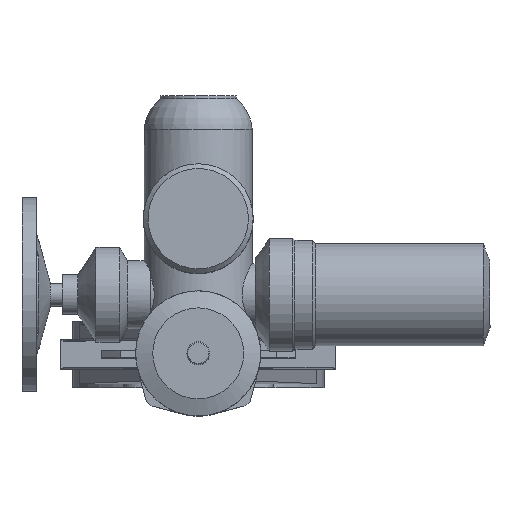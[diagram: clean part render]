
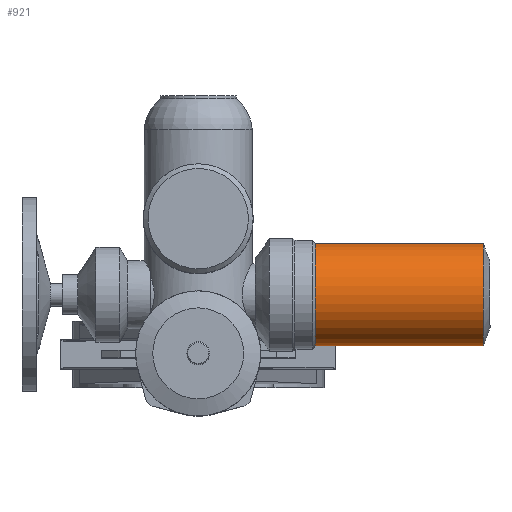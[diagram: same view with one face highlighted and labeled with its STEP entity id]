
A CAD part, top view. The second image highlights one B-rep face of the part: STEP entity #921.
In plain terms, the highlighted cylindrical face has radius 54 mm (diameter 108 mm), a full revolution.
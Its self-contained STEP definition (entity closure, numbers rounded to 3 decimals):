
#921=ADVANCED_FACE('',(#2933,#2935),#2937,.T.);
#2933=FACE_OUTER_BOUND('',#2934,.T.);
#2934=EDGE_LOOP('',(#4399));
#2935=FACE_OUTER_BOUND('',#2936,.T.);
#2936=EDGE_LOOP('',(#4400));
#2937=CYLINDRICAL_SURFACE('',#2938,54.);
#2938=AXIS2_PLACEMENT_3D('',#2939,#2940,#2941);
#2939=CARTESIAN_POINT('',(301.085,62.,625.));
#2940=DIRECTION('',(-1.,0.,0.));
#2941=DIRECTION('',(0.,0.,1.));
#4399=ORIENTED_EDGE('',*,*,#5372,.T.);
#4400=ORIENTED_EDGE('',*,*,#5283,.F.);
#5283=EDGE_CURVE('',#5994,#5994,#5995,.T.);
#5372=EDGE_CURVE('',#6148,#6148,#6149,.T.);
#5994=VERTEX_POINT('',#8485);
#5995=CIRCLE('',#8486,54.);
#6148=VERTEX_POINT('',#8835);
#6149=CIRCLE('',#8836,54.);
#8485=CARTESIAN_POINT('',(123.505,62.,679.));
#8486=AXIS2_PLACEMENT_3D('',#8487,#8488,#8489);
#8487=CARTESIAN_POINT('',(123.505,62.,625.));
#8488=DIRECTION('',(-1.,0.,0.));
#8489=DIRECTION('',(0.,0.,1.));
#8835=CARTESIAN_POINT('',(301.085,62.,679.));
#8836=AXIS2_PLACEMENT_3D('',#8837,#8838,#8839);
#8837=CARTESIAN_POINT('',(301.085,62.,625.));
#8838=DIRECTION('',(-1.,0.,0.));
#8839=DIRECTION('',(0.,0.,1.));
